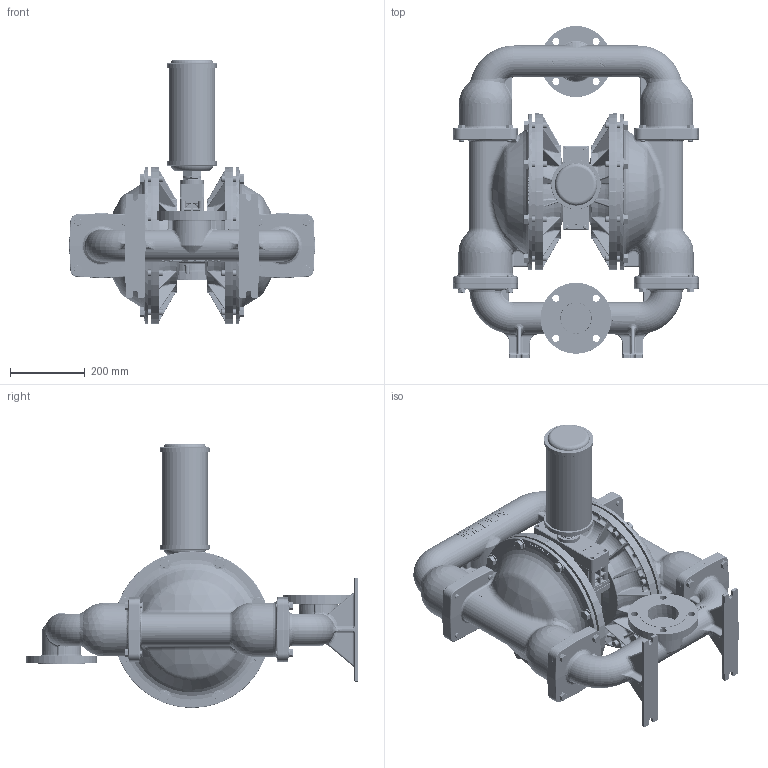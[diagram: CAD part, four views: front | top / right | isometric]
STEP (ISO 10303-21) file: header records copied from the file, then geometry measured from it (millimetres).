
FILE_DESCRIPTION (( 'STEP AP203' ), '1' );
FILE_NAME ('PS1530_ADV_SS_ANSI.STEP', '2022-05-27T05:47:11', ( '' ), ( '' ), 'SwSTEP 2.0', 'SolidWorks 2019', '' );
FILE_SCHEMA (( 'CONFIG_CONTROL_DESIGN' ));
Length unit declared in the file: inch
Products named in the file (1): PS1530_ADV_SS_ANSI
Bounding box: 659.94 x 890.9 x 710.18 mm (x, y, z)
Volume: 54838719.4 mm3; surface area: 2553370.8 mm2
Topology: 1 solids, 1 shells, 10761 faces, 26509 edges, 16048 vertices
Faces by surface type: plane 4502, bspline 2654, cylinder 1340, torus 1035, cone 710, sphere 520
Entity records: 619730 total; most frequent: CARTESIAN_POINT 387362, ORIENTED_EDGE 52930, DIRECTION 42502, EDGE_CURVE 26465, VERTEX_POINT 16040, AXIS2_PLACEMENT_3D 15812, EDGE_LOOP 11219, VECTOR 10878
